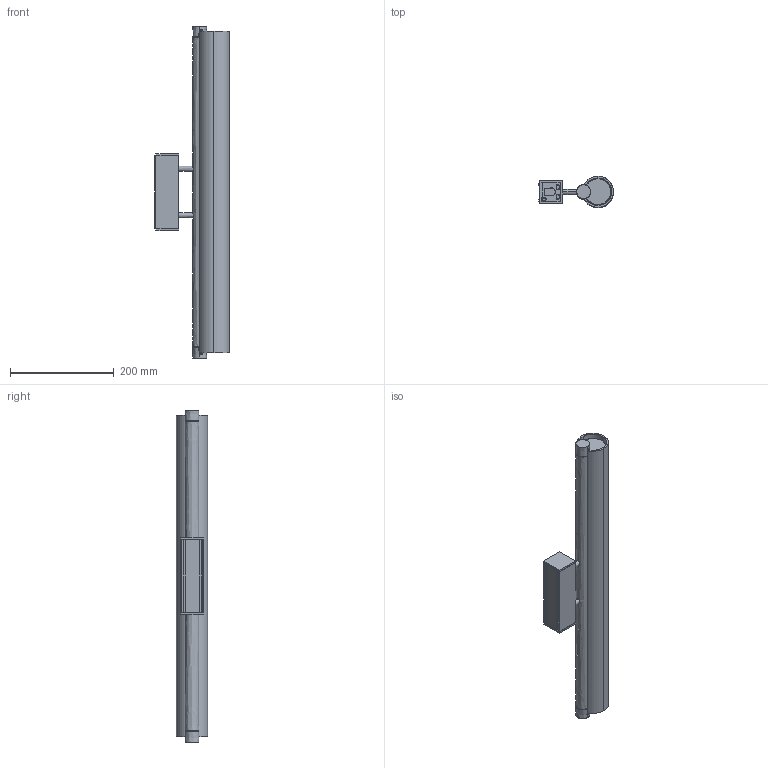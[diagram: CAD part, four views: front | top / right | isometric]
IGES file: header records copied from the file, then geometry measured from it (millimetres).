
Start section: SolidWorks IGES file using analytic representation for surfaces
Global section: file name: C:\Users\tungari.NEMOLIGHTING\Desktop\3D\WALL\3D_NORMA_65555\DEF\3D_NORMA_65.IGS; native system: SolidWorks 2016; preprocessor: SolidWorks 2016; author: tungari; date: 180314.143344; units: millimetre
Bounding box: 144.22 x 60 x 639 mm (x, y, z)
Surface area: 321671.6 mm2 (no closed solid volume)
Topology: 0 solids, 0 shells, 456 faces, 4459 edges, 4419 vertices
Faces by surface type: bspline 276, revolution 180
